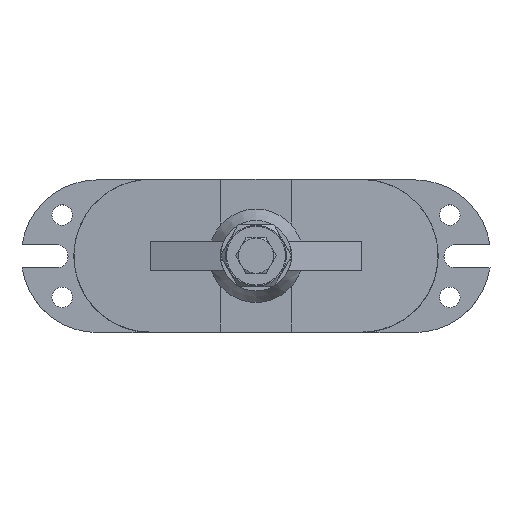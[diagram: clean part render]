
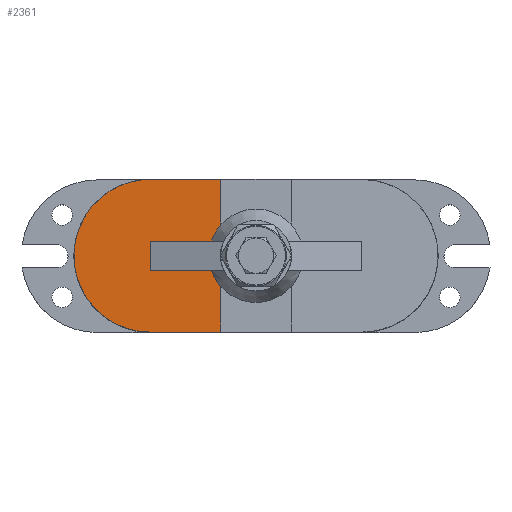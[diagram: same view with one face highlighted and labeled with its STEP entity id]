
A CAD part, top view. The second image highlights one B-rep face of the part: STEP entity #2361.
In plain terms, the highlighted planar face has unit normal (-0.04, 0, 0.999) as drawn and (0.04, 0, 0.999) by its records, which use the part's own axes.
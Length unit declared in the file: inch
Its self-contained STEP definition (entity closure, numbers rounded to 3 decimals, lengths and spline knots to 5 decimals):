
#36=ELLIPSE($,#2584,0.98155,0.98058);
#37=ELLIPSE($,#2585,1.6263,1.625);
#38=ELLIPSE($,#2586,0.98155,0.98058);
#404=FACE_OUTER_BOUND($,#584,.T.);
#584=EDGE_LOOP($,(#1883,#1884,#1885,#1886,#1887,#1888,#1889,#1890,#1891,
#1892));
#776=LINE($,#3774,#950);
#781=LINE($,#3790,#955);
#784=LINE($,#3804,#958);
#785=LINE($,#3812,#959);
#786=LINE($,#3814,#960);
#787=LINE($,#3818,#961);
#788=LINE($,#3820,#962);
#950=VECTOR($,#3064,1.30218);
#955=VECTOR($,#3073,0.625);
#958=VECTOR($,#3082,1.30218);
#959=VECTOR($,#3087,0.971);
#960=VECTOR($,#3088,1.5012);
#961=VECTOR($,#3091,1.5012);
#962=VECTOR($,#3092,0.971);
#1140=VERTEX_POINT($,#3772);
#1141=VERTEX_POINT($,#3773);
#1147=VERTEX_POINT($,#3788);
#1149=VERTEX_POINT($,#3803);
#1150=VERTEX_POINT($,#3809);
#1151=VERTEX_POINT($,#3811);
#1152=VERTEX_POINT($,#3813);
#1153=VERTEX_POINT($,#3815);
#1154=VERTEX_POINT($,#3817);
#1155=VERTEX_POINT($,#3819);
#1401=EDGE_CURVE($,#1140,#1141,#776,.T.);
#1408=EDGE_CURVE($,#1141,#1147,#781,.T.);
#1413=EDGE_CURVE($,#1147,#1149,#784,.T.);
#1415=EDGE_CURVE($,#1149,#1150,#36,.T.);
#1416=EDGE_CURVE($,#1151,#1150,#785,.T.);
#1417=EDGE_CURVE($,#1152,#1151,#786,.T.);
#1418=EDGE_CURVE($,#1153,#1152,#37,.T.);
#1419=EDGE_CURVE($,#1154,#1153,#787,.T.);
#1420=EDGE_CURVE($,#1155,#1154,#788,.T.);
#1421=EDGE_CURVE($,#1155,#1140,#38,.T.);
#1883=ORIENTED_EDGE($,*,*,#1401,.T.);
#1884=ORIENTED_EDGE($,*,*,#1408,.T.);
#1885=ORIENTED_EDGE($,*,*,#1413,.T.);
#1886=ORIENTED_EDGE($,*,*,#1415,.T.);
#1887=ORIENTED_EDGE($,*,*,#1416,.F.);
#1888=ORIENTED_EDGE($,*,*,#1417,.F.);
#1889=ORIENTED_EDGE($,*,*,#1418,.F.);
#1890=ORIENTED_EDGE($,*,*,#1419,.F.);
#1891=ORIENTED_EDGE($,*,*,#1420,.F.);
#1892=ORIENTED_EDGE($,*,*,#1421,.T.);
#2247=PLANE($,#2583);
#2361=ADVANCED_FACE($,(#404),#2247,.F.);
#2583=AXIS2_PLACEMENT_3D($,#3808,#3083,#3084);
#2584=AXIS2_PLACEMENT_3D($,#3810,#3085,#3086);
#2585=AXIS2_PLACEMENT_3D($,#3816,#3089,#3090);
#2586=AXIS2_PLACEMENT_3D($,#3821,#3093,#3094);
#3064=DIRECTION($,(0.999,0.,-0.04));
#3073=DIRECTION($,(0.,-1.,0.));
#3082=DIRECTION($,(-0.999,0.,0.04));
#3083=DIRECTION('center_axis',(-0.04,0.,-0.999));
#3084=DIRECTION('ref_axis',(-0.999,0.,0.04));
#3085=DIRECTION('center_axis',(-0.04,0.,-0.999));
#3086=DIRECTION('ref_axis',(0.999,0.,-0.04));
#3087=DIRECTION($,(0.,1.,0.));
#3088=DIRECTION($,(-0.999,0.,0.04));
#3089=DIRECTION('center_axis',(-0.04,0.,-0.999));
#3090=DIRECTION('ref_axis',(0.999,0.,-0.04));
#3091=DIRECTION($,(0.999,0.,-0.04));
#3092=DIRECTION($,(0.,1.,0.));
#3093=DIRECTION('center_axis',(-0.04,0.,-0.999));
#3094=DIRECTION('ref_axis',(0.999,0.,-0.04));
#3772=CARTESIAN_POINT('',(0.94886,0.3125,0.30455));
#3773=CARTESIAN_POINT('',(2.25,0.3125,0.2525));
#3774=CARTESIAN_POINT($,(1.04898,0.3125,0.30054));
#3788=CARTESIAN_POINT('',(2.25,-0.3125,0.2525));
#3790=CARTESIAN_POINT($,(2.25,0.,0.2525));
#3803=CARTESIAN_POINT('',(0.94886,-0.3125,0.30455));
#3804=CARTESIAN_POINT($,(1.04898,-0.3125,0.30054));
#3808=CARTESIAN_POINT('Origin',(0.75,0.,0.3125));
#3809=CARTESIAN_POINT('',(0.75,-0.654,0.3125));
#3810=CARTESIAN_POINT('Origin',(0.01923,0.,0.34173));
#3811=CARTESIAN_POINT('',(0.75,-1.625,0.3125));
#3812=CARTESIAN_POINT($,(0.75,0.,0.3125));
#3813=CARTESIAN_POINT('',(2.25,-1.625,0.2525));
#3814=CARTESIAN_POINT($,(1.50504,-1.625,0.2823));
#3815=CARTESIAN_POINT('',(2.25,1.625,0.2525));
#3816=CARTESIAN_POINT('Origin',(2.25,0.,0.2525));
#3817=CARTESIAN_POINT('',(0.75,1.625,0.3125));
#3818=CARTESIAN_POINT($,(-0.74136,1.625,0.37215));
#3819=CARTESIAN_POINT('',(0.75,0.654,0.3125));
#3820=CARTESIAN_POINT($,(0.75,0.,0.3125));
#3821=CARTESIAN_POINT('Origin',(0.01923,0.,0.34173));
